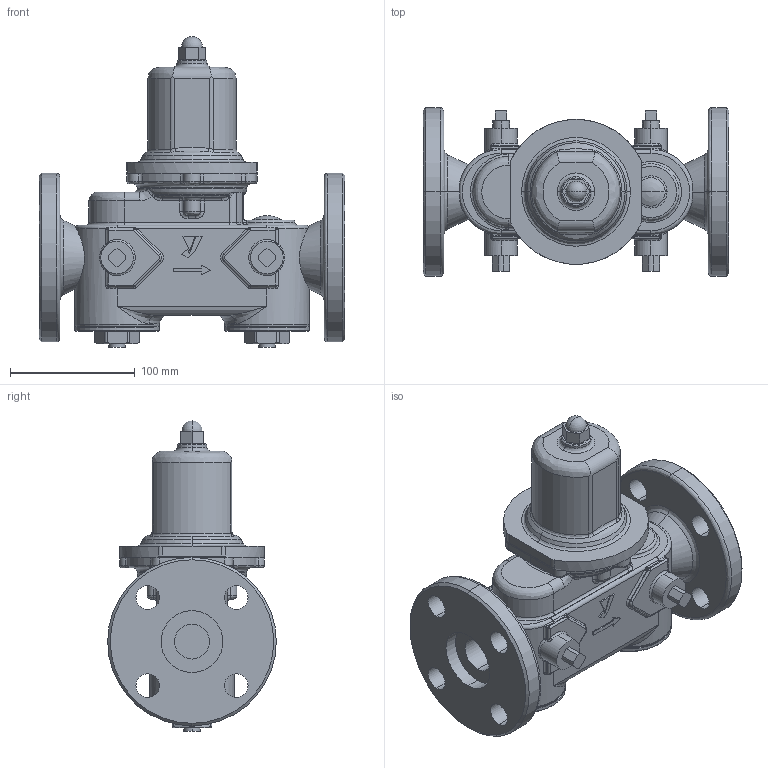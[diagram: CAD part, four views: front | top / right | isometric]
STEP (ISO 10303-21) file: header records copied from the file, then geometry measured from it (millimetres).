
FILE_DESCRIPTION( (''), '2;1');
FILE_NAME ('PC1028.3444.GD-27BP 32A_32067.stp','2024-12-18T14:20:46',(''),(''),'spGate 20.6.3 (****-****-****-****)','','');
FILE_SCHEMA (('AUTOMOTIVE_DESIGN'));
Length unit declared in the file: millimetre
Bounding box: 245 x 135 x 249 mm (x, y, z)
Volume: 2159241.1 mm3; surface area: 189495.5 mm2
Topology: 1 solids, 1 shells, 599 faces, 1454 edges, 851 vertices
Faces by surface type: cylinder 212, bspline 207, plane 161, sphere 19
Entity records: 34829 total; most frequent: CARTESIAN_POINT 10436, ORIENTED_EDGE 2840, DIRECTION 2514, COLOUR_RGB 2020, PRESENTATION_STYLE_ASSIGNMENT 2020, STYLED_ITEM 2020, EDGE_CURVE 1420, DRAUGHTING_PRE_DEFINED_CURVE_FONT 1420
